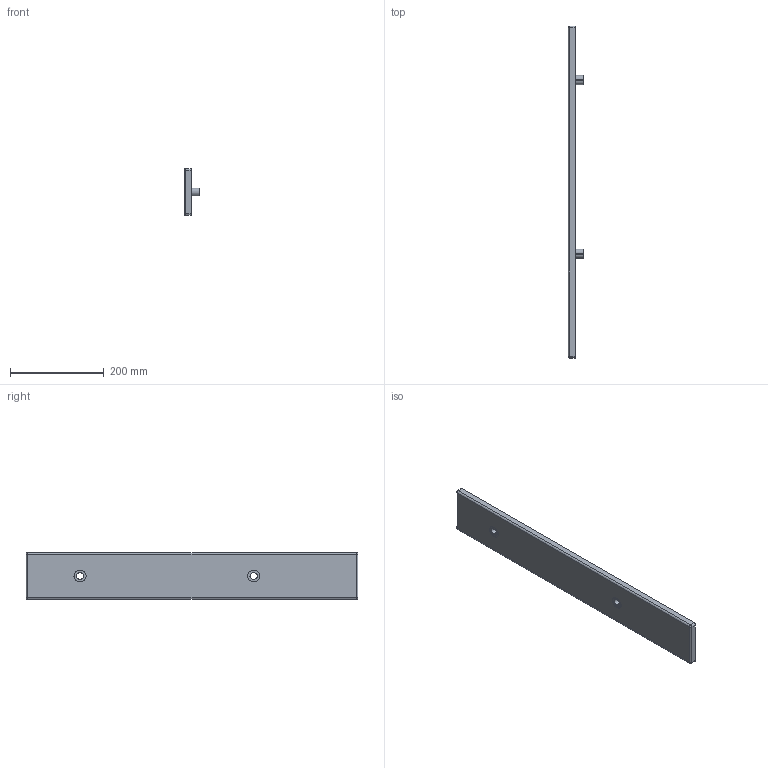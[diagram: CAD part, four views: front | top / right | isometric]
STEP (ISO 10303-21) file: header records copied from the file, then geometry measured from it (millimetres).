
FILE_DESCRIPTION(/* description */ (''),/* implementation_level */ '2;1');
FILE_NAME(/* name */ '1361400007T.stp',/* time_stamp */ '2022-06-09T10:00:56+02:00',/* author */ (''),/* organization */ (''),/* preprocessor_version */ 'ST-DEVELOPER v18.101',/* originating_system */ 'SIEMENS PLM Software NX 2008',/* authorisation */ '');
FILE_SCHEMA (('AUTOMOTIVE_DESIGN { 1 0 10303 214 3 1 1 1 }'));
Length unit declared in the file: millimetre
Products named in the file (1): 1361400007T
Bounding box: 34 x 707 x 100 mm (x, y, z)
Volume: 184349.4 mm3; surface area: 188435.2 mm2
Topology: 1 solids, 1 shells, 63 faces, 152 edges, 88 vertices
Faces by surface type: cylinder 28, plane 27, sphere 8
Entity records: 1794 total; most frequent: DIRECTION 328, CARTESIAN_POINT 296, ORIENTED_EDGE 288, EDGE_CURVE 144, AXIS2_PLACEMENT_3D 120, VERTEX_POINT 88, LINE 88, VECTOR 88
